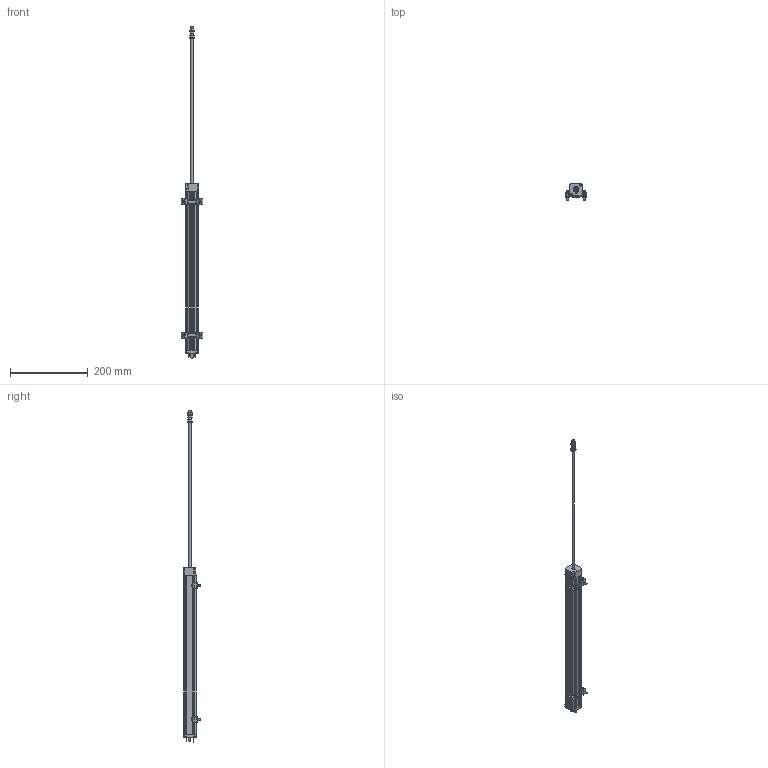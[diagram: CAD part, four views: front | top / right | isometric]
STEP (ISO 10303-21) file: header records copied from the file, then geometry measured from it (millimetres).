
FILE_DESCRIPTION (( 'STEP AP203' ), '1' );
FILE_NAME ('LWH_360.STEP', '2010-03-25T08:53:56', ( 'novotechnik' ), ( 'novotechnik' ), 'SwSTEP 2.0', 'SolidWorks 2009', '' );
FILE_SCHEMA (( 'CONFIG_CONTROL_DESIGN' ));
Length unit declared in the file: millimetre
Products named in the file (16): LWH_360; Gehäuseprofil_LWH_LWH_360; Grundelement; Gewindebuchse; Kontaktblech_flach; Spannklammer; Schubstange_LWH_360; Sechskantmutter_M6-05_Verz._ISO_4035; Sechskantmutter_M6-8_verz._EN1661; Scheibe_6,4-140HV_verzi._ISO_7089; Zahnscheibe_DIN_6797-A6,4; Zyl.-Schraube_M3x16_Furch._m._Torx; Steckerflansch; Kontaktblech_abgewinkelt; Scheibe_4,3-HV_verzi._ISO_7090; Zylinderschraube_12.9_M4x20_ISO_4762
Assembly tree (31 placements, depth 2):
  LWH_360
    Spannklammer  x2
    Scheibe_6,4-140HV_verzi._ISO_7089  x2
    Gehäuseprofil_LWH_LWH_360
    Kontaktblech_abgewinkelt  x3
    Scheibe_4,3-HV_verzi._ISO_7090  x4
    Zyl.-Schraube_M3x16_Furch._m._Torx  x6
    Sechskantmutter_M6-05_Verz._ISO_4035  x2
    Zahnscheibe_DIN_6797-A6,4
    Zylinderschraube_12.9_M4x20_ISO_4762  x4
    Grundelement
    Schubstange_LWH_360
    Kontaktblech_flach
    Gewindebuchse
    Sechskantmutter_M6-8_verz._EN1661
    Steckerflansch
Bounding box: 56 x 42.88 x 853 mm (x, y, z)
Volume: 407397.6 mm3; surface area: 107395.7 mm2
Topology: 35 solids, 35 shells, 1066 faces, 2743 edges, 1770 vertices
Faces by surface type: plane 501, cylinder 392, cone 114, bspline 37, torus 22
Entity records: 24578 total; most frequent: CARTESIAN_POINT 6094, ORIENTED_EDGE 3434, DIRECTION 3348, EDGE_CURVE 1717, AXIS2_PLACEMENT_3D 1134, VERTEX_POINT 1110, VECTOR 1080, LINE 1080
